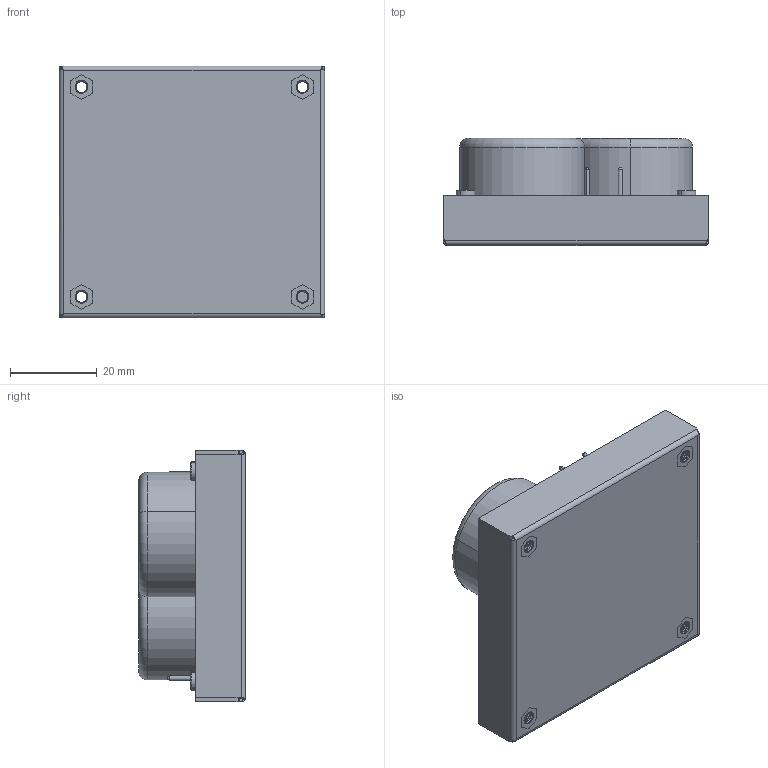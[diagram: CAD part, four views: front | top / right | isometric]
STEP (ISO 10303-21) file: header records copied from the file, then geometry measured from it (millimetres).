
FILE_DESCRIPTION (( 'STEP AP214' ), '1' );
FILE_NAME ('FM10D200P¦¨«~¹Ï1071225.STEP', '2019-10-18T03:59:16', ( '' ), ( '' ), 'SwSTEP 2.0', 'SolidWorks 2017', '' );
FILE_SCHEMA (( 'AUTOMOTIVE_DESIGN' ));
Length unit declared in the file: millimetre
Products named in the file (8): PCB-1071004; G7211361119 ｶ鷄IN ｣r2.0 x｣r1x16.5 mm; FM10D200 電感示意圖; FM10D200P成品圖1071225; CHE100W-XXSXX CASE 1070920; PCB1071004; CHE100W-XXSXX CASE(M-C569-01-J)G5130042016,G5130142016,G5139342016 (1070920); CHE100W-XXSXX六角銅柱M3 (M-C569-01-J)G5139342016
Assembly tree (15 placements, depth 3):
  FM10D200P成品圖1071225
    CHE100W-XXSXX CASE(M-C569-01-J)G5130042016,G5130142016,G5139342016 (1070920)
      CHE100W-XXSXX CASE 1070920
      CHE100W-XXSXX六角銅柱M3 (M-C569-01-J)G5139342016  x4
    PCB1071004
      PCB-1071004
      G7211361119 ｶ鷄IN ｣r2.0 x｣r1x16.5 mm  x5
    FM10D200 電感示意圖  x2
Bounding box: 61 x 24.6 x 57.9 mm (x, y, z)
Volume: 31309.3 mm3; surface area: 31782.1 mm2
Topology: 13 solids, 13 shells, 487 faces, 1291 edges, 848 vertices
Faces by surface type: cylinder 304, plane 137, cone 26, bspline 12, torus 8
Entity records: 11423 total; most frequent: CARTESIAN_POINT 5806, ORIENTED_EDGE 1178, DIRECTION 1046, EDGE_CURVE 589, VERTEX_POINT 386, AXIS2_PLACEMENT_3D 361, VECTOR 324, LINE 324
